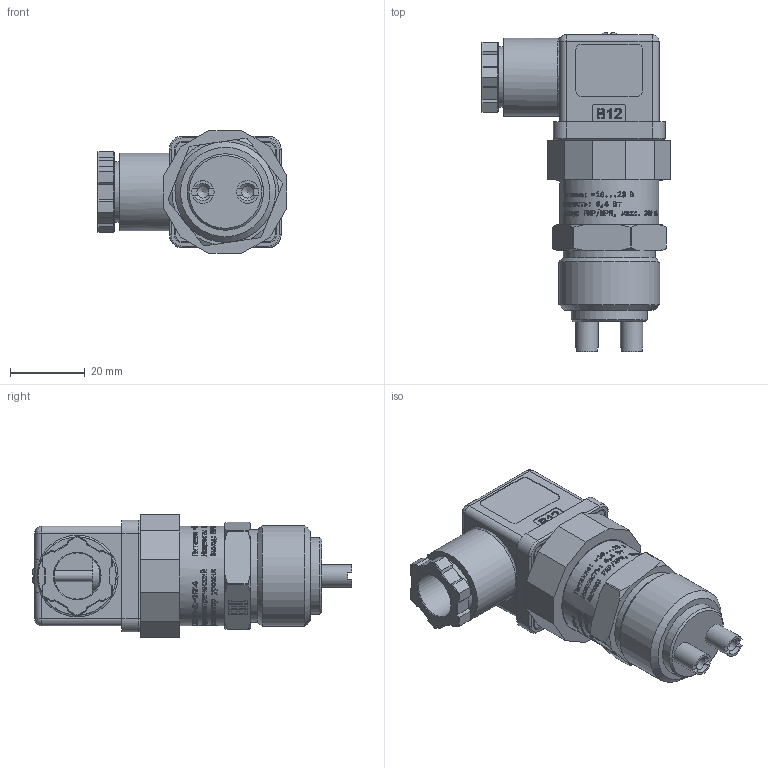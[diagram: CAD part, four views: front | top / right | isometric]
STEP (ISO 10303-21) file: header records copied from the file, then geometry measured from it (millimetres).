
FILE_DESCRIPTION(('STEP AP214'), '1');
FILE_NAME('CLS.D01', '2025-02-18T08:38:20', (''), (''), 'ASCON STEP Converter 1.6', 'ASCON Math Kernel', '');
FILE_SCHEMA(('AUTOMOTIVE_DESIGN { 1 0 10303 214 3 1 1}'));
Length unit declared in the file: millimetre
Bounding box: 50.85 x 85.64 x 33 mm (x, y, z)
Volume: 38290.1 mm3; surface area: 32259.1 mm2
Topology: 9 solids, 10 shells, 4127 faces, 11044 edges, 7213 vertices
Faces by surface type: bspline 1886, plane 1288, cylinder 590, torus 254, extrusion 61, cone 40, sphere 8
Full cylindrical faces by diameter (mm): 1.65 x4, 2 x1, 2.459 x3, 3 x3, 3.2 x2, 3.242 x2, 3.5 x2, 5.5 x1, 6 x4, 6.84 x1, 7.8 x1, 8.6 x1, 12 x1, 12.4 x2, 12.5 x1, 12.8 x1, 14 x1, 16.2 x1, 16.24 x1, 16.8 x2, 16.918 x1, 17.5 x2, 18 x1, 20.5 x2, 20.92 x1, 21.5 x1, 22 x3, 23 x1, 24 x1, 24.5 x1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
Entity records: 218708 total; most frequent: CARTESIAN_POINT 98787, ORIENTED_EDGE 21898, DIRECTION 11254, EDGE_CURVE 10949, VERTEX_POINT 7208, B_SPLINE_CURVE_WITH_KNOTS 5735, EDGE_LOOP 4515, FACE_BOUND 4381
